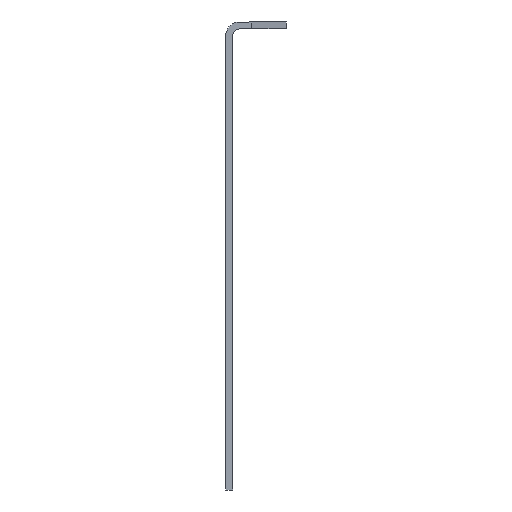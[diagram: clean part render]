
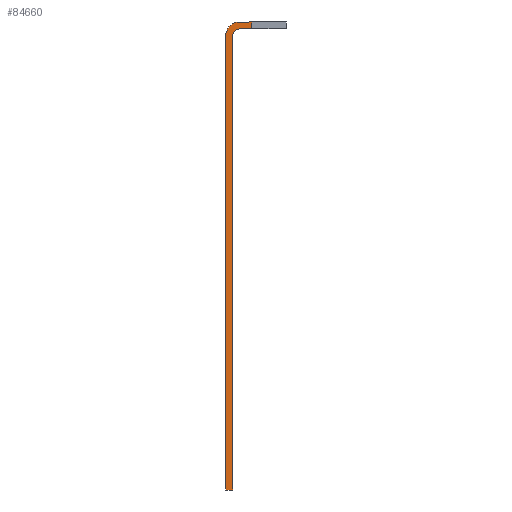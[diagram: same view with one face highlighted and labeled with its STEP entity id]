
A CAD part, left-side view. The second image highlights one B-rep face of the part: STEP entity #84660.
In plain terms, the highlighted planar face has unit normal (-1, 0, 0) as drawn and (1, 0, 0) by its records, which use the part's own axes.
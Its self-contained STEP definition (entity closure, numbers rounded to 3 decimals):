
#24140=CARTESIAN_POINT('',(599.7,134.96,0.));
#24150=VERTEX_POINT('',#24140);
#24180=CARTESIAN_POINT('',(599.7,-0.04,0.));
#24190=DIRECTION('',(0.,1.,0.));
#24200=VECTOR('',#24190,1.);
#24210=LINE('',#24180,#24200);
#24220=CARTESIAN_POINT('',(599.7,3.96,0.))
;
#24230=VERTEX_POINT('',#24220);
#24240=EDGE_CURVE('',#24230,#24150,#24210,.T.);
#24660=CARTESIAN_POINT('',(599.7,3.96,2.));
#24670=DIRECTION('',(1.,0.,0.));
#24680=DIRECTION('',(0.,-1.,0.));
#24690=AXIS2_PLACEMENT_3D('',#24660,#24670,#24680);
#24700=CIRCLE('',#24690,2.);
#24710=CARTESIAN_POINT('',(599.7,1.96,2.));
#24720=VERTEX_POINT('',#24710);
#24730=EDGE_CURVE('',#24720,#24230,#24700,.T.);
#24990=CARTESIAN_POINT('',(599.7,1.96,0.));
#25000=DIRECTION('',(0.,0.,-1.));
#25010=VECTOR('',#25000,1.);
#25020=LINE('',#24990,#25010);
#25030=CARTESIAN_POINT('',(599.7,1.96,5.502));
#25040=VERTEX_POINT('',#25030);
#25050=EDGE_CURVE('',#25040,#24720,#25020,.T.);
#83390=CARTESIAN_POINT('',(599.7,3.96,-2.));
#83400=VERTEX_POINT('',#83390);
#83430=CARTESIAN_POINT('',(599.7,-14.203,-2.));
#83440=DIRECTION('',(0.,1.,0.));
#83450=VECTOR('',#83440,1.);
#83460=LINE('',#83430,#83450);
#83470=CARTESIAN_POINT('',(599.7,134.96,-2.));
#83480=VERTEX_POINT('',#83470);
#83490=EDGE_CURVE('',#83400,#83480,#83460,.T.);
#84260=CARTESIAN_POINT('',(599.7,142.96,-139.021));
#84270=DIRECTION('',(1.,-0.,0.));
#84280=DIRECTION('',(0.,0.,-1.));
#84290=AXIS2_PLACEMENT_3D('',#84260,#84270,#84280);
#84300=PLANE('',#84290);
#84310=ORIENTED_EDGE('',*,*,#25050,.F.);
#84320=ORIENTED_EDGE('',*,*,#24730,.F.);
#84330=ORIENTED_EDGE('',*,*,#24240,.F.);
#84340=CARTESIAN_POINT('',(599.7,134.96,0.));
#84350=DIRECTION('',(0.,0.,-1.));
#84360=VECTOR('',#84350,1.);
#84370=LINE('',#84340,#84360);
#84380=EDGE_CURVE('',#24150,#83480,#84370,.T.);
#84390=ORIENTED_EDGE('',*,*,#84380,.F.);
#84400=ORIENTED_EDGE('',*,*,#83490,.T.);
#84410=CARTESIAN_POINT('',(599.7,3.96,2.));
#84420=DIRECTION('',(-1.,0.,0.));
#84430=DIRECTION('',(0.,0.,-1.));
#84440=AXIS2_PLACEMENT_3D('',#84410,#84420,#84430);
#84450=CIRCLE('',#84440,4.);
#84460=CARTESIAN_POINT('',(599.7,-0.04,2.));
#84470=VERTEX_POINT('',#84460);
#84480=EDGE_CURVE('',#83400,#84470,#84450,.T.);
#84490=ORIENTED_EDGE('',*,*,#84480,.F.);
#84500=CARTESIAN_POINT('',(599.7,-0.04,0.));
#84510=DIRECTION('',(0.,0.,1.));
#84520=VECTOR('',#84510,1.);
#84530=LINE('',#84500,#84520);
#84540=CARTESIAN_POINT('',(599.7,-0.04,5.502));
#84550=VERTEX_POINT('',#84540);
#84560=EDGE_CURVE('',#84470,#84550,#84530,.T.);
#84570=ORIENTED_EDGE('',*,*,#84560,.F.);
#84580=CARTESIAN_POINT('',(599.7,0.96,5.502));
#84590=DIRECTION('',(0.,-1.,0.));
#84600=VECTOR('',#84590,1.);
#84610=LINE('',#84580,#84600);
#84620=EDGE_CURVE('',#25040,#84550,#84610,.T.);
#84630=ORIENTED_EDGE('',*,*,#84620,.T.);
#84640=EDGE_LOOP('',(#84630,#84570,#84490,#84400,#84390,#84330,#84320,
#84310));
#84650=FACE_OUTER_BOUND('',#84640,.T.);
#84660=ADVANCED_FACE('',(#84650),#84300,.T.);
